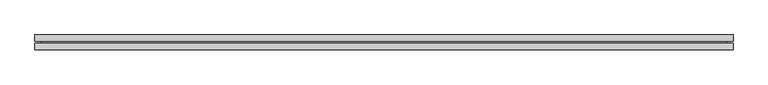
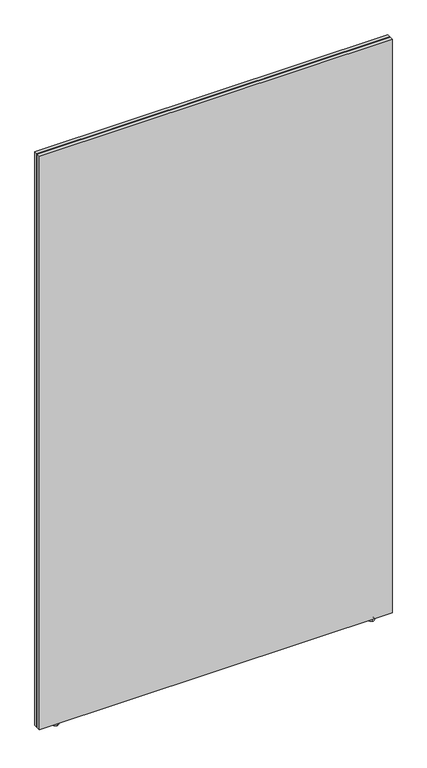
"""IFC4 building model written with IfcOpenShell, lengths in millimetres: furniture geometry, Geiger_GeigerOneCasegoods_WallFrameHuddleRoomApplication : 48Wx1Dx82.5H."""

import ifcopenshell
import ifcopenshell.guid

model = None  # the IFC model being written
_history = None  # IfcOwnerHistory: only IFC2X3 demands one
_inside = {}  # id of a spatial element -> (the spatial element, [elements in it])
_under = {}  # id of a project, library or spatial element -> (it, [spatial elements below it])
_declared = {}  # id of a project -> (the project, [libraries it declares])
_typed = {}  # id of a type object -> (the type object, [elements of that type])
_made_of = {}  # id of a material, layer set ... -> (it, [elements and type objects made of it])


def new_model(schema):
    """Start an empty IFC model of exactly this schema.

    Asked for "IFC4X3", IfcOpenShell would pick the latest addendum, in which some entities
    have other attributes; the version numbers below select the first issue.
    IFC2X3 requires an IfcOwnerHistory on every rooted entity: one is made here for all.
    """
    global model, _history
    if schema == "IFC4X3":
        model = ifcopenshell.file(schema_version=(4, 3, 0, 0))
    else:
        model = ifcopenshell.file(schema=schema)
    _inside.clear()
    _under.clear()
    _declared.clear()
    _typed.clear()
    _made_of.clear()
    _history = None
    if model.schema == "IFC2X3":
        org = make("IfcOrganization", Name="unknown")
        user = make(
            "IfcPersonAndOrganization",
            ThePerson=make("IfcPerson", FamilyName="unknown"),
            TheOrganization=org,
        )
        app = make(
            "IfcApplication",
            ApplicationDeveloper=org,
            Version="unknown",
            ApplicationFullName="unknown",
            ApplicationIdentifier="unknown",
        )
        _history = make(
            "IfcOwnerHistory",
            OwningUser=user,
            OwningApplication=app,
            ChangeAction="ADDED",
            CreationDate=0,
        )
    return model


def make(cls, **values):
    """One entity of the class cls with the attributes given. An attribute that is None is left unset."""
    return model.create_entity(
        cls, **{name: value for name, value in values.items() if value is not None}
    )


def rooted(cls, **values):
    """An entity with a GlobalId (a new one), such as an element, a storey or a relation."""
    return make(cls, GlobalId=ifcopenshell.guid.new(), OwnerHistory=_history, **values)


def si_unit(unit_type, name, prefix=None):
    """IfcSIUnit, for example si_unit("LENGTHUNIT", "METRE", prefix="MILLI")."""
    return make("IfcSIUnit", UnitType=unit_type, Prefix=prefix, Name=name)


def assignment(units):
    """IfcUnitAssignment: the units of a project."""
    return None if units is None else make("IfcUnitAssignment", Units=units)


def point(xyz):
    """IfcCartesianPoint."""
    return None if xyz is None else make("IfcCartesianPoint", Coordinates=xyz)


def direction(xyz):
    """IfcDirection."""
    return None if xyz is None else make("IfcDirection", DirectionRatios=xyz)


def frame(location, z_axis=None, x_axis=None):
    """IfcAxis2Placement3D, a coordinate frame: its origin and axes. An axis left out is left unset."""
    return make(
        "IfcAxis2Placement3D",
        Location=point(location),
        Axis=direction(z_axis),
        RefDirection=direction(x_axis),
    )


def origin():
    """The frame at (0, 0, 0) with its axes left unset."""
    return frame((0.0, 0.0, 0.0))


def place(relative_to, where):
    """IfcLocalPlacement: puts the frame where relative to a parent placement (None: the world)."""
    return make(
        "IfcLocalPlacement", PlacementRelTo=relative_to, RelativePlacement=where
    )


def context(
    kind, dimensions, precision=None, world=None, true_north=None, identifier=None
):
    """IfcGeometricRepresentationContext, for example the 3D "Model" context."""
    return make(
        "IfcGeometricRepresentationContext",
        ContextIdentifier=identifier,
        ContextType=kind,
        CoordinateSpaceDimension=dimensions,
        Precision=precision,
        WorldCoordinateSystem=world,
        TrueNorth=true_north,
    )


def project(units=None, contexts=None):
    """IfcProject with its units and contexts."""
    return rooted(
        "IfcProject",
        Name="project",
        RepresentationContexts=contexts,
        UnitsInContext=assignment(units),
    )


def spatial(cls, under=None, at=None, **own):
    """A site, building, storey or space (cls), placed at a placement, below another one or the project."""
    s = rooted(cls, ObjectPlacement=at, **own)
    if under is not None:
        _under.setdefault(under.id(), (under, []))[1].append(s)
    return s


def circle_curve(where, radius):
    """IfcCircle in the frame where."""
    return make("IfcCircle", Position=where, Radius=radius)


def ellipse_curve(where, semi_axis1, semi_axis2):
    """IfcEllipse in the frame where."""
    return make(
        "IfcEllipse", Position=where, SemiAxis1=semi_axis1, SemiAxis2=semi_axis2
    )


def trimmed(basis, trim1, trim2, sense, master):
    """IfcTrimmedCurve: the piece of a basis curve between two trims."""
    return make(
        "IfcTrimmedCurve",
        BasisCurve=basis,
        Trim1=trim1,
        Trim2=trim2,
        SenseAgreement=sense,
        MasterRepresentation=master,
    )


def faces_of(points, faces, orient=None, outer=None):
    """IfcFace entities. A face is a list of loops; a loop is a list of indices into points, from 0.

    orient and outer hold one flag for each loop. By default every Orientation is true, the
    first loop of a face is its IfcFaceOuterBound and the others are IfcFaceBound.
    """
    made = []
    for i, loops in enumerate(faces):
        bounds = []
        for j, loop in enumerate(loops):
            is_outer = j == 0 if outer is None else outer[i][j]
            bounds.append(
                make(
                    "IfcFaceOuterBound" if is_outer else "IfcFaceBound",
                    Bound=make("IfcPolyLoop", Polygon=[points[k] for k in loop]),
                    Orientation=True if orient is None else orient[i][j],
                )
            )
        made.append(make("IfcFace", Bounds=bounds))
    return made


def faceted_brep(points, faces, orient=None, outer=None, voids=None):
    """IfcFacetedBrep: a solid bounded by flat faces; with voids (closed shells), ...WithVoids."""
    shared = [point(p) for p in points]
    hull = make("IfcClosedShell", CfsFaces=faces_of(shared, faces, orient, outer))
    if voids is None:
        return make("IfcFacetedBrep", Outer=hull)
    return make(
        "IfcFacetedBrepWithVoids",
        Outer=hull,
        Voids=[
            make(cls, CfsFaces=faces_of(shared, fs, o, b)) for cls, fs, o, b in voids
        ],
    )


def shape(context_of_items, identifier, shape_type, items):
    """IfcShapeRepresentation: the items that make up one representation, for example the "Body"."""
    return make(
        "IfcShapeRepresentation",
        ContextOfItems=context_of_items,
        RepresentationIdentifier=identifier,
        RepresentationType=shape_type,
        Items=items,
    )


def source(mapping_origin, context_of_items, identifier, shape_type, items):
    """IfcRepresentationMap: a shape defined once, which mapped items show again and again."""
    return make(
        "IfcRepresentationMap",
        MappingOrigin=mapping_origin,
        MappedRepresentation=shape(context_of_items, identifier, shape_type, items),
    )


def transform(
    local_origin,
    x_axis=None,
    y_axis=None,
    z_axis=None,
    scale=None,
    scale2=None,
    scale3=None,
    uniform=True,
):
    """IfcCartesianTransformationOperator3D, or its non-uniform kind. x_axis, y_axis, z_axis: its Axis1, 2, 3."""
    if uniform:
        return make(
            "IfcCartesianTransformationOperator3D",
            Axis1=direction(x_axis),
            Axis2=direction(y_axis),
            LocalOrigin=point(local_origin),
            Scale=scale,
            Axis3=direction(z_axis),
        )
    return make(
        "IfcCartesianTransformationOperator3DnonUniform",
        Axis1=direction(x_axis),
        Axis2=direction(y_axis),
        LocalOrigin=point(local_origin),
        Scale=scale,
        Axis3=direction(z_axis),
        Scale2=scale2,
        Scale3=scale3,
    )


def mapped(mapping_source, mapping_target):
    """IfcMappedItem: shows the shape of a source again, moved by a transform."""
    return make(
        "IfcMappedItem", MappingSource=mapping_source, MappingTarget=mapping_target
    )


def made_of(thing, what):
    """Note that an element or type object is made of a material, layer set ...; save() writes the relation."""
    if what is not None:
        _made_of.setdefault(what.id(), (what, []))[1].append(thing)
    return thing


def element(
    cls,
    number,
    at=None,
    inside=None,
    cuts=None,
    type_object=None,
    material=None,
    context=None,
    identifier="Body",
    shape_type=None,
    held_by="IfcProductDefinitionShape",
    body=None,
    shapes=None,
    **own,
):
    """One element of the class cls, such as IfcWall. Its Tag is "e" and its number.

    at: its placement. inside: the storey or other place that contains it. cuts: it is an
    opening in that element (IfcRelVoidsElement). A single representation is given by context,
    identifier, shape_type and body (its items); several are given by shapes. held_by: the class
    of the entity that holds the representations. save() writes the other relations.
    """
    e = rooted(cls, Tag="e%d" % number, ObjectPlacement=at, **own)
    if body is not None:
        shapes = [shape(context, identifier, shape_type, body)]
    if shapes is not None:
        e.Representation = make(held_by, Representations=shapes)
    if inside is not None:
        _inside.setdefault(inside.id(), (inside, []))[1].append(e)
    if cuts is not None:
        rooted(
            "IfcRelVoidsElement", RelatingBuildingElement=cuts, RelatedOpeningElement=e
        )
    if type_object is not None:
        _typed.setdefault(type_object.id(), (type_object, []))[1].append(e)
    return made_of(e, material)


def aggregate(whole, parts):
    """IfcRelAggregates: a whole, such as a stair, and the parts it consists of."""
    return rooted("IfcRelAggregates", RelatingObject=whole, RelatedObjects=parts)


def save(model, path):
    """Write the relations noted so far, then the file.

    IfcRelAggregates (storeys below a building ...), IfcRelContainedInSpatialStructure (elements
    in a storey), IfcRelDefinesByType, IfcRelAssociatesMaterial and IfcRelDeclares: one each for
    every whole, place, type object, material and project.
    """
    for whole, parts in _under.values():
        aggregate(whole, parts)
    for where, things in _inside.values():
        rooted(
            "IfcRelContainedInSpatialStructure",
            RelatedElements=things,
            RelatingStructure=where,
        )
    for kind, things in _typed.values():
        rooted("IfcRelDefinesByType", RelatedObjects=things, RelatingType=kind)
    for what, things in _made_of.values():
        rooted("IfcRelAssociatesMaterial", RelatedObjects=things, RelatingMaterial=what)
    for by, libraries in _declared.values():
        rooted("IfcRelDeclares", RelatingContext=by, RelatedDefinitions=libraries)
    model.write(path)


def plane_surface(at):
    """IfcPlane: the flat surface through the origin of the frame at, square to its z axis."""
    return make("IfcPlane", Position=at)


def cylinder_surface(at, radius):
    """IfcCylindricalSurface: all points at the distance radius from the z axis of the frame at."""
    return make("IfcCylindricalSurface", Position=at, Radius=radius)


def revolved_surface(curve, axis_point, axis_direction):
    """IfcSurfaceOfRevolution: the curve turned about the line through axis_point along axis_direction."""
    return make(
        "IfcSurfaceOfRevolution",
        SweptCurve=make("IfcArbitraryOpenProfileDef", ProfileType="CURVE", Curve=curve),
        AxisPosition=make("IfcAxis1Placement", Location=point(axis_point), Axis=direction(axis_direction)),
    )


def advanced_brep(points, edges, surfaces, faces):
    """IfcAdvancedBrep: a solid bounded by faces that lie on surfaces and meet in shared edges.

    An edge is (start, end): straight between two places in points (the first is 0);
    or (start, end, curve); or (start, end, curve, False) where it runs against its curve.
    A face is (place in surfaces, loops), or (place, loops, False) where it looks against
    its surface's normal. A loop lists edges by number (the first is 1), with a minus sign
    where the edge is run from its end to its start. The first loop is the outer one.
    """
    corners = [point(p) for p in points]
    vertices = [make("IfcVertexPoint", VertexGeometry=c) for c in corners]
    made = []
    for start, end, *more in edges:
        made.append(
            make(
                "IfcEdgeCurve",
                EdgeStart=vertices[start],
                EdgeEnd=vertices[end],
                EdgeGeometry=more[0] if more else make("IfcPolyline", Points=[corners[start], corners[end]]),
                SameSense=more[1] if len(more) > 1 else True,
            )
        )
    hull = []
    for where, loops, *sense in faces:
        bounds = []
        for j, loop in enumerate(loops):
            ring = [make("IfcOrientedEdge", EdgeElement=made[abs(k) - 1], Orientation=k > 0) for k in loop]
            bounds.append(
                make(
                    "IfcFaceOuterBound" if j == 0 else "IfcFaceBound",
                    Bound=make("IfcEdgeLoop", EdgeList=ring),
                    Orientation=True,
                )
            )
        hull.append(make("IfcAdvancedFace", Bounds=bounds, FaceSurface=surfaces[where], SameSense=sense[0] if sense else True))
    return make("IfcAdvancedBrep", Outer=make("IfcClosedShell", CfsFaces=hull))


def furniture_0a34b4cb(model_context):
    return source(origin(), model_context, "Body", "SolidModel", [
        faceted_brep([(1219.2, -26.0, 12.7), (1219.2, -26.0, 2108.2), (0.0, -26.0, 2108.2), (0.0, -26.0, 12.7), (1219.2, 0.0, 2108.2), (1219.2, 0.0, 12.7), (0.0, 0.0, 12.7), (0.0, 0.0, 2108.2), (1219.2, -14.5, 2108.2), (1219.2, -14.5, 12.7), (1208.2, -11.5, 2097.2), (1208.2, -14.5, 2097.2), (1208.2, -14.5, 23.7), (1208.2, -11.5, 23.7), (1219.2, -11.5, 2108.2), (1219.2, -11.5, 12.7), (0.0, -14.5, 12.7), (11.0, -14.5, 23.7), (11.0, -11.5, 23.7), (0.0, -11.5, 12.7), (0.0, -14.5, 2108.2), (11.0, -14.5, 2097.2), (11.0, -11.5, 2097.2), (0.0, -11.5, 2108.2)], [[[0, 1, 2, 3]], [[4, 5, 6, 7]], [[8, 1, 0, 9]], [[10, 11, 12, 13]], [[4, 14, 15, 5]], [[9, 0, 3, 16]], [[13, 12, 17, 18]], [[5, 15, 19, 6]], [[16, 3, 2, 20]], [[18, 17, 21, 22]], [[6, 19, 23, 7]], [[1, 8, 20, 2]], [[8, 9, 16, 20], [12, 11, 21, 17]], [[11, 10, 22, 21]], [[15, 14, 23, 19], [10, 13, 18, 22]], [[14, 4, 7, 23]]]),
        advanced_brep(
        [(1155.2, -13.0, 0.0), (1155.2, -8.2612423, 0.0), (1155.2, -17.7387577, 0.0), (1155.2, -7.1362597, 9.4), (1155.2, -18.8637403, 9.4), (1155.2, -5.75, 9.4), (1155.2, -20.25, 9.4), (1155.2, -5.75, 12.7), (1155.2, -20.25, 12.7), (1155.2, -13.0, 12.7)],
        [
            (0, 1),
            (1, 2, circle_curve(frame((1155.2, -13.0, 0.0), z_axis=(0.0, 0.0, -1.0), x_axis=(0.0, 1.0, 0.0)), 4.7387577)),
            (2, 0),
            (2, 1, circle_curve(frame((1155.2, -13.0, 0.0), z_axis=(0.0, 0.0, -1.0), x_axis=(0.0, 1.0, 0.0)), 4.7387577)),
            (1, 3, circle_curve(frame((1155.2, -8.2612423, 4.7673184), z_axis=(1.0, 0.0, 0.0), x_axis=(0.0, 1.0, 0.0)), 4.7673184)),
            (3, 4, circle_curve(frame((1155.2, -13.0, 9.4), z_axis=(0.0, 0.0, -1.0), x_axis=(0.0, 1.0, 0.0)), 5.8637403)),
            (4, 2, circle_curve(frame((1155.2, -17.7387577, 4.7673184), z_axis=(1.0, 0.0, 0.0), x_axis=(0.0, -1.0, 0.0)), 4.7673184)),
            (4, 3, circle_curve(frame((1155.2, -13.0, 9.4), z_axis=(0.0, 0.0, -1.0), x_axis=(0.0, 1.0, 0.0)), 5.8637403)),
            (3, 5),
            (5, 6, circle_curve(frame((1155.2, -13.0, 9.4), z_axis=(0.0, 0.0, -1.0), x_axis=(0.0, 1.0, 0.0)), 7.25)),
            (6, 4),
            (6, 5, circle_curve(frame((1155.2, -13.0, 9.4), z_axis=(0.0, 0.0, -1.0), x_axis=(0.0, 1.0, 0.0)), 7.25)),
            (5, 7),
            (7, 8, circle_curve(frame((1155.2, -13.0, 12.7), z_axis=(0.0, 0.0, -1.0), x_axis=(0.0, 1.0, 0.0)), 7.25)),
            (8, 6),
            (8, 7, circle_curve(frame((1155.2, -13.0, 12.7), z_axis=(0.0, 0.0, -1.0), x_axis=(0.0, 1.0, 0.0)), 7.25)),
            (7, 9),
            (9, 8),
        ],
        [
            plane_surface(frame((1155.2, -13.0, 0.0), z_axis=(0.0, 0.0, -1.0), x_axis=(0.0, 1.0, 0.0))),
            revolved_surface(trimmed(ellipse_curve(frame((1155.2, -8.2612423, 4.7673184), z_axis=(-1.0, 0.0, 0.0), x_axis=(0.0, 1.0, 0.0)), 4.7673184, 4.7673184), [point((1155.2, -7.1362597, 9.4))], [point((1155.2, -8.2612423, 0.0))], True, "CARTESIAN"), (1155.2, -13.0, 0.0), (0.0, 0.0, -1.0)),
            plane_surface(frame((1155.2, -13.0, 9.4), z_axis=(0.0, 0.0, -1.0), x_axis=(0.0, 1.0, 0.0))),
            cylinder_surface(frame((1155.2, -13.0, 0.0), z_axis=(0.0, 0.0, -1.0), x_axis=(0.0, 1.0, 0.0)), 7.25),
            plane_surface(frame((1155.2, -13.0, 12.7), z_axis=(0.0, 0.0, 1.0), x_axis=(0.0, 1.0, 0.0))),
        ],
        [
            (0, [[1, 2, 3]]),
            (0, [[-3, 4, -1]]),
            (1, [[-2, 5, 6, 7]]),
            (1, [[-4, -7, 8, -5]]),
            (2, [[-6, 9, 10, 11]]),
            (2, [[-8, -11, 12, -9]]),
            (3, [[-10, 13, 14, 15]]),
            (3, [[-12, -15, 16, -13]]),
            (4, [[-14, 17, 18]]),
            (4, [[-16, -18, -17]]),
        ],
    ),
        advanced_brep(
        [(64.0, -17.7387577, 0.0), (64.0, -8.2612423, 0.0), (64.0, -13.0, 0.0), (64.0, -18.8637403, 9.4), (64.0, -7.1362597, 9.4), (64.0, -20.25, 9.4), (64.0, -5.75, 9.4), (64.0, -20.25, 12.7), (64.0, -5.75, 12.7), (64.0, -13.0, 12.7)],
        [
            (0, 1, circle_curve(frame((64.0, -13.0, 0.0), z_axis=(0.0, 0.0, -1.0), x_axis=(0.0, 1.0, 0.0)), 4.7387577)),
            (1, 2),
            (2, 0),
            (1, 0, circle_curve(frame((64.0, -13.0, 0.0), z_axis=(0.0, 0.0, -1.0), x_axis=(0.0, 1.0, 0.0)), 4.7387577)),
            (3, 4, circle_curve(frame((64.0, -13.0, 9.4), z_axis=(0.0, 0.0, -1.0), x_axis=(0.0, 1.0, 0.0)), 5.8637403)),
            (4, 1, circle_curve(frame((64.0, -8.2612423, 4.7673184), z_axis=(-1.0, 0.0, 0.0), x_axis=(0.0, 1.0, 0.0)), 4.7673184)),
            (0, 3, circle_curve(frame((64.0, -17.7387577, 4.7673184), z_axis=(-1.0, 0.0, 0.0), x_axis=(0.0, -1.0, 0.0)), 4.7673184)),
            (4, 3, circle_curve(frame((64.0, -13.0, 9.4), z_axis=(0.0, 0.0, -1.0), x_axis=(0.0, 1.0, 0.0)), 5.8637403)),
            (5, 6, circle_curve(frame((64.0, -13.0, 9.4), z_axis=(0.0, 0.0, -1.0), x_axis=(0.0, 1.0, 0.0)), 7.25)),
            (6, 4),
            (3, 5),
            (6, 5, circle_curve(frame((64.0, -13.0, 9.4), z_axis=(0.0, 0.0, -1.0), x_axis=(0.0, 1.0, 0.0)), 7.25)),
            (7, 8, circle_curve(frame((64.0, -13.0, 12.7), z_axis=(0.0, 0.0, -1.0), x_axis=(0.0, 1.0, 0.0)), 7.25)),
            (8, 6),
            (5, 7),
            (8, 7, circle_curve(frame((64.0, -13.0, 12.7), z_axis=(0.0, 0.0, -1.0), x_axis=(0.0, 1.0, 0.0)), 7.25)),
            (9, 8),
            (7, 9),
        ],
        [
            plane_surface(frame((64.0, -13.0, 0.0), z_axis=(0.0, 0.0, -1.0), x_axis=(0.0, 1.0, 0.0))),
            revolved_surface(trimmed(ellipse_curve(frame((64.0, -8.2612423, 4.7673184), z_axis=(1.0, 0.0, 0.0), x_axis=(0.0, 1.0, 0.0)), 4.7673184, 4.7673184), [point((64.0, -8.2612423, 0.0))], [point((64.0, -7.1362597, 9.4))], True, "CARTESIAN"), (64.0, -13.0, 0.0), (0.0, 0.0, 1.0)),
            plane_surface(frame((64.0, -13.0, 9.4), z_axis=(0.0, 0.0, -1.0), x_axis=(0.0, 1.0, 0.0))),
            cylinder_surface(frame((64.0, -13.0, 0.0), z_axis=(0.0, 0.0, 1.0), x_axis=(0.0, 1.0, 0.0)), 7.25),
            plane_surface(frame((64.0, -13.0, 12.7), z_axis=(0.0, 0.0, 1.0), x_axis=(0.0, 1.0, 0.0))),
        ],
        [
            (0, [[1, 2, 3]]),
            (0, [[4, -3, -2]]),
            (1, [[5, 6, -1, 7]]),
            (1, [[8, -7, -4, -6]]),
            (2, [[9, 10, -5, 11]]),
            (2, [[12, -11, -8, -10]]),
            (3, [[13, 14, -9, 15]]),
            (3, [[16, -15, -12, -14]]),
            (4, [[17, -13, 18]]),
            (4, [[-18, -16, -17]]),
        ],
    ),
    ])


if __name__ == "__main__":
    model = new_model("IFC4")
    model_context = context("Model", 3, world=origin())
    ifc_project = project(units=[si_unit("LENGTHUNIT", "METRE", prefix="MILLI")], contexts=[model_context])
    site = spatial("IfcSite", under=ifc_project)
    building = spatial("IfcBuilding", under=site)
    placement = place(None, origin())
    furniture_shape = furniture_0a34b4cb(model_context)
    element("IfcFurniture", 1, ObjectType="Geiger_GeigerOneCasegoods_WallFrameHuddleRoomApplication : 48Wx1Dx82.5H", at=placement, inside=building, context=model_context, shape_type="MappedRepresentation", body=[
        mapped(furniture_shape, transform((0.0, 0.0, 0.0), x_axis=(1.0, 0.0, 0.0), y_axis=(0.0, 1.0, 0.0), z_axis=(0.0, 0.0, 1.0))),
    ])
    save(model, "model.ifc")
